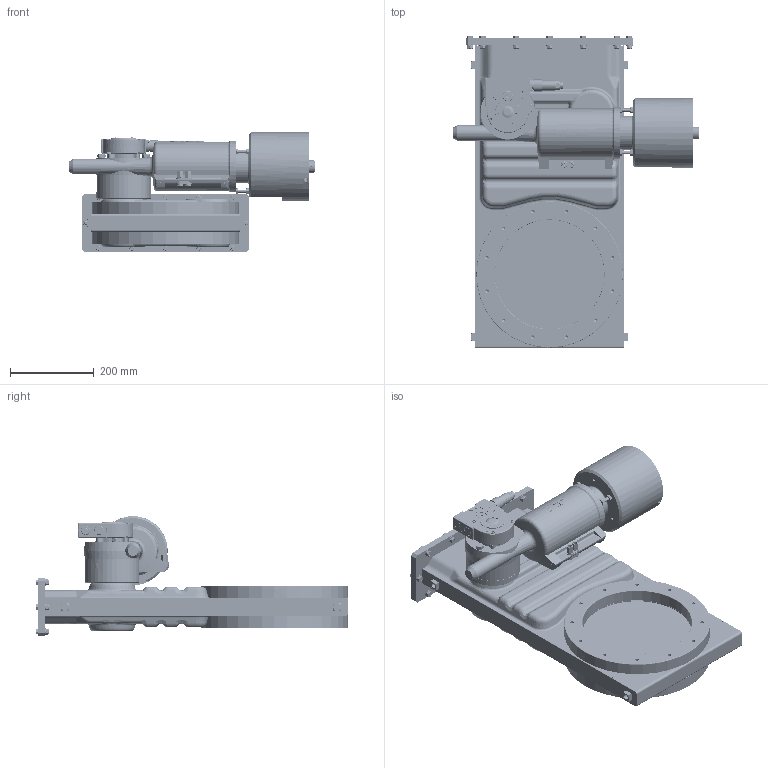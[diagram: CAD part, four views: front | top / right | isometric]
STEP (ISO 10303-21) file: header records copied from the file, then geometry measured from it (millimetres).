
FILE_DESCRIPTION(/* description */ (''),/* implementation_level */ '2;1');
FILE_NAME(/* name */ '1609184142_203.stp',/* time_stamp */ '2021-12-03T09:05:30+01:00',/* author */ (''),/* organization */ (''),/* preprocessor_version */ 'ST-DEVELOPER v16.7',/* originating_system */ 'SIEMENS PLM Software NX 1915',/* authorisation */ '');
FILE_SCHEMA (('AP203_CONFIGURATION_CONTROLLED_3D_DESIGN_OF_MECHANICAL_PARTS_AND_ASSEMBLIES_MIM_LF { 1 0 10303 403 2 1 2}'));
Products named in the file (45): 374665; 224474.6; 224476.6; 224477.6; N-6091-458.1; 326349.1; 50058-01.2; 50053-01.2; 50053-01.2_30310ID; n-7016-010; N-7605-005.1; N-7015-015.2; N-5062-003.1; n-6160-412; N-5021-552.1; n-8504-002; 60532-01_1.2; 60539-01.1; 60538-01_2.1; N-6027-015.3; N-6289-133.2; 60538-01.1; N-6029-112.1; N-8504-102.3; N-6029-102.1; N-6016-123.1; 230595.2; 230591.1; 230750.3; N-6203-417.1; N-6072-440.1; 230594.2; N-6203-105.1; N-6001-499.1; N-6005-474.1; N-6131-414; 87334-01.1; 93516-01.1; 49321-01.6; N-5021-497.1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
Assembly tree (119 placements, depth 4):
  855518
    83485-r1.2
      N-5062-003.1  x2
      N-7015-015.2  x2
      N-7605-005.1  x2
      n-7016-010  x2
    N-6053-412.2  x15
    N-5021-497.1  x12
    49321-01.6
    50048-R1.8
      374705_MODEL
        224477.6
        224476.6
        224474.6
        374665  x2
      50053-01.2_30310ID
      50053-01.2
      50058-01.2
      326349.1  x4
      N-6091-458.1  x2
    93516-01.1
    87334-01.1
    N-6131-414  x24
    N-6005-474.1  x8
    N-6001-499.1  x3
    N-6203-105.1
    230594.2
    N-6072-440.1
    N-6203-417.1
    230750.3
    230591.1
    230595.2
    N-6016-123.1  x4
    N-6029-102.1  x2
    N-8504-102.3
    N-6029-112.1  x2
    60538-01.1
    N-6289-133.2
    N-6027-015.3  x2
    60538-01_2.1
    60539-01.1
    60532-01_1.2  x2
    n-8504-002
    N-5021-552.1  x2
    n-6160-412  x2
Bounding box: 587.15 x 746.4 x 285.85 mm (x, y, z)
Volume: 10226279.6 mm3; surface area: 2585915 mm2
Topology: 180 solids, 180 shells, 4059 faces, 9181 edges, 5710 vertices
Faces by surface type: plane 1735, cylinder 1224, bspline 437, cone 410, torus 165, sphere 76, extrusion 12
Full cylindrical faces by diameter (mm): 1.5 x7, 1.6 x2, 1.66 x7, 1.8 x10, 2 x24, 2.2 x2, 2.25 x20, 2.45 x20, 2.55 x4, 2.657 x1, 2.9 x4, 3 x12, 3.025 x8, 3.07 x12, 3.2 x8, 3.251 x1, 3.26 x4, 3.28 x8, 3.3 x12, 3.6 x2, 3.85 x4, 4 x11, 4.16 x1, 4.2 x3, 4.55 x8, 4.96 x8, 5 x20, 5.05 x2, 5.09 x2, 5.5 x2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
Entity records: 94669 total; most frequent: CARTESIAN_POINT 28154, DIRECTION 12643, ORIENTED_EDGE 11490, EDGE_CURVE 5745, AXIS2_PLACEMENT_3D 5210, VERTEX_POINT 3946, EDGE_LOOP 3842, ADVANCED_FACE 2788
